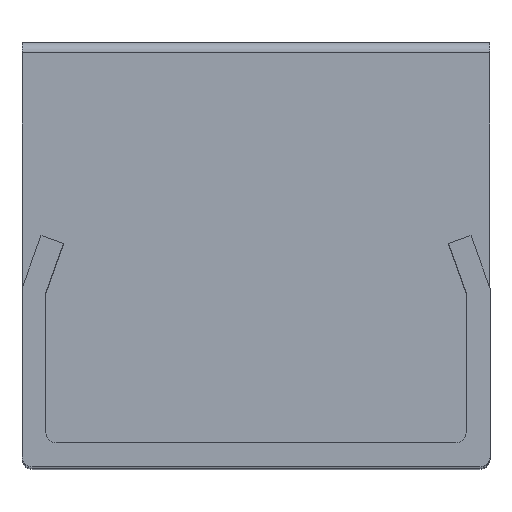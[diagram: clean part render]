
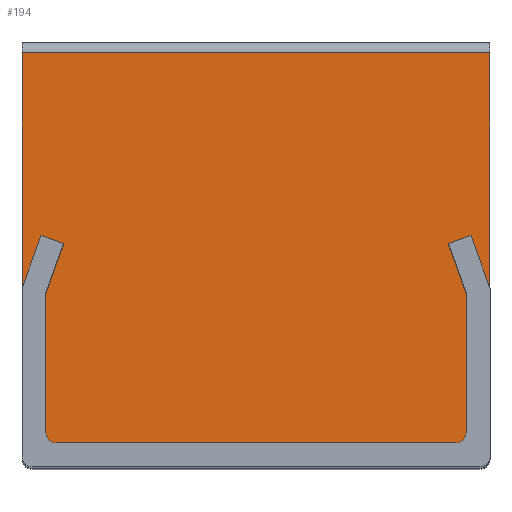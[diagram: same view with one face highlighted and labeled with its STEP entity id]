
A CAD part, top view. The second image highlights one B-rep face of the part: STEP entity #194.
In plain terms, the highlighted planar face has unit normal (0, 0, 1).
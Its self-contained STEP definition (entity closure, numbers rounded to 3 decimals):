
#26 = VERTEX_POINT ( 'NONE', #1462 ) ;
#31 = VERTEX_POINT ( 'NONE', #266 ) ;
#34 = EDGE_CURVE ( 'NONE', #31, #1263, #398, .T. ) ;
#45 = CARTESIAN_POINT ( 'NONE',  ( -22.55, 14.9, 0. ) ) ;
#65 = VECTOR ( 'NONE', #1095, 1000. ) ;
#71 = EDGE_CURVE ( 'NONE', #1098, #623, #477, .T. ) ;
#104 = PLANE ( 'NONE',  #277 ) ;
#115 = DIRECTION ( 'NONE',  ( 0.941, 0.338, 0. ) ) ;
#119 = EDGE_CURVE ( 'NONE', #243, #1357, #1418, .T. ) ;
#132 = CARTESIAN_POINT ( 'NONE',  ( 18.556, 19.223, 0. ) ) ;
#142 = VECTOR ( 'NONE', #729, 1000. ) ;
#164 = EDGE_CURVE ( 'NONE', #300, #1518, #692, .T. ) ;
#166 = VECTOR ( 'NONE', #1209, 1000. ) ;
#168 = CARTESIAN_POINT ( 'NONE',  ( -19.25, 0., 0. ) ) ;
#173 = CARTESIAN_POINT ( 'NONE',  ( 19.25, 0., 0. ) ) ;
#182 = VECTOR ( 'NONE', #888, 1000. ) ;
#194 = ADVANCED_FACE ( 'NONE', ( #546 ), #104, .F. ) ;
#217 = LINE ( 'NONE', #751, #182 ) ;
#233 = CARTESIAN_POINT ( 'NONE',  ( 21.6, 37.7, 0. ) ) ;
#235 = CIRCLE ( 'NONE', #1068, 1. ) ;
#236 = LINE ( 'NONE', #1528, #475 ) ;
#243 = VERTEX_POINT ( 'NONE', #1444 ) ;
#247 = ORIENTED_EDGE ( 'NONE', *, *, #71, .T. ) ;
#250 = CARTESIAN_POINT ( 'NONE',  ( 21.6, 37.7, 0. ) ) ;
#266 = CARTESIAN_POINT ( 'NONE',  ( -18.556, 19.223, 0. ) ) ;
#274 = LINE ( 'NONE', #381, #1490 ) ;
#277 = AXIS2_PLACEMENT_3D ( 'NONE', #233, #1190, #967 ) ;
#300 = VERTEX_POINT ( 'NONE', #132 ) ;
#341 = VECTOR ( 'NONE', #1217, 1000. ) ;
#354 = VECTOR ( 'NONE', #744, 1000. ) ;
#360 = VERTEX_POINT ( 'NONE', #1106 ) ;
#367 = ORIENTED_EDGE ( 'NONE', *, *, #1058, .T. ) ;
#381 = CARTESIAN_POINT ( 'NONE',  ( -20.25, 1., 0. ) ) ;
#389 = ORIENTED_EDGE ( 'NONE', *, *, #630, .F. ) ;
#393 = CIRCLE ( 'NONE', #772, 1. ) ;
#398 = LINE ( 'NONE', #629, #341 ) ;
#402 = ORIENTED_EDGE ( 'NONE', *, *, #34, .T. ) ;
#426 = DIRECTION ( 'NONE',  ( 1., 0., 0. ) ) ;
#429 = DIRECTION ( 'NONE',  ( 0., 1., 0. ) ) ;
#448 = DIRECTION ( 'NONE',  ( 1., 0., 0. ) ) ;
#462 = CARTESIAN_POINT ( 'NONE',  ( -20.721, 20., 0. ) ) ;
#475 = VECTOR ( 'NONE', #1540, 1000. ) ;
#477 = LINE ( 'NONE', #1112, #166 ) ;
#490 = CARTESIAN_POINT ( 'NONE',  ( 20.25, 1., 0. ) ) ;
#537 = DIRECTION ( 'NONE',  ( 0., 0., 1. ) ) ;
#546 = FACE_OUTER_BOUND ( 'NONE', #1560, .T. ) ;
#555 = ORIENTED_EDGE ( 'NONE', *, *, #119, .T. ) ;
#558 = DIRECTION ( 'NONE',  ( 0., 1., 0. ) ) ;
#568 = CARTESIAN_POINT ( 'NONE',  ( 22.55, 35.4, 0. ) ) ;
#597 = LINE ( 'NONE', #1032, #808 ) ;
#608 = DIRECTION ( 'NONE',  ( 0., -1., 0. ) ) ;
#612 = CARTESIAN_POINT ( 'NONE',  ( 20.25, 14.5, 0. ) ) ;
#623 = VERTEX_POINT ( 'NONE', #173 ) ;
#629 = CARTESIAN_POINT ( 'NONE',  ( -18.556, 19.223, 0. ) ) ;
#630 = EDGE_CURVE ( 'NONE', #26, #1357, #597, .T. ) ;
#659 = DIRECTION ( 'NONE',  ( 0.338, 0.941, 0. ) ) ;
#683 = ORIENTED_EDGE ( 'NONE', *, *, #1160, .T. ) ;
#688 = LINE ( 'NONE', #876, #354 ) ;
#692 = LINE ( 'NONE', #956, #904 ) ;
#729 = DIRECTION ( 'NONE',  ( 0., 1., 0. ) ) ;
#744 = DIRECTION ( 'NONE',  ( -0.338, 0.941, 0. ) ) ;
#751 = CARTESIAN_POINT ( 'NONE',  ( 22.55, 14.9, 0. ) ) ;
#752 = ORIENTED_EDGE ( 'NONE', *, *, #990, .T. ) ;
#772 = AXIS2_PLACEMENT_3D ( 'NONE', #1149, #537, #426 ) ;
#779 = CARTESIAN_POINT ( 'NONE',  ( -19.25, 1., 0. ) ) ;
#780 = EDGE_CURVE ( 'NONE', #1473, #31, #236, .T. ) ;
#804 = EDGE_CURVE ( 'NONE', #1154, #243, #880, .T. ) ;
#808 = VECTOR ( 'NONE', #558, 1000. ) ;
#869 = ORIENTED_EDGE ( 'NONE', *, *, #1521, .T. ) ;
#876 = CARTESIAN_POINT ( 'NONE',  ( 18.556, 19.223, 0. ) ) ;
#880 = LINE ( 'NONE', #568, #1568 ) ;
#888 = DIRECTION ( 'NONE',  ( 0.338, -0.941, 0. ) ) ;
#904 = VECTOR ( 'NONE', #115, 1000. ) ;
#938 = EDGE_CURVE ( 'NONE', #953, #1436, #1353, .T. ) ;
#953 = VERTEX_POINT ( 'NONE', #490 ) ;
#956 = CARTESIAN_POINT ( 'NONE',  ( 20.721, 20., 0. ) ) ;
#967 = DIRECTION ( 'NONE',  ( 0., 1., 0. ) ) ;
#981 = ORIENTED_EDGE ( 'NONE', *, *, #780, .T. ) ;
#990 = EDGE_CURVE ( 'NONE', #1263, #360, #274, .T. ) ;
#1020 = CARTESIAN_POINT ( 'NONE',  ( -22.55, 37.7, 0. ) ) ;
#1022 = CARTESIAN_POINT ( 'NONE',  ( 20.721, 20., 0. ) ) ;
#1032 = CARTESIAN_POINT ( 'NONE',  ( -22.55, 35.4, 0. ) ) ;
#1058 = EDGE_CURVE ( 'NONE', #1518, #1154, #217, .T. ) ;
#1061 = ORIENTED_EDGE ( 'NONE', *, *, #938, .T. ) ;
#1068 = AXIS2_PLACEMENT_3D ( 'NONE', #779, #1511, #448 ) ;
#1095 = DIRECTION ( 'NONE',  ( -1., 0., 0. ) ) ;
#1098 = VERTEX_POINT ( 'NONE', #168 ) ;
#1106 = CARTESIAN_POINT ( 'NONE',  ( -20.25, 1., 0. ) ) ;
#1112 = CARTESIAN_POINT ( 'NONE',  ( 19.25, 0., 0. ) ) ;
#1123 = VECTOR ( 'NONE', #659, 1000. ) ;
#1138 = ORIENTED_EDGE ( 'NONE', *, *, #1543, .T. ) ;
#1149 = CARTESIAN_POINT ( 'NONE',  ( 19.25, 1., 0. ) ) ;
#1154 = VERTEX_POINT ( 'NONE', #1372 ) ;
#1160 = EDGE_CURVE ( 'NONE', #1436, #300, #688, .T. ) ;
#1162 = LINE ( 'NONE', #45, #1123 ) ;
#1190 = DIRECTION ( 'NONE',  ( 0., 0., -1. ) ) ;
#1209 = DIRECTION ( 'NONE',  ( 1., 0., 0. ) ) ;
#1217 = DIRECTION ( 'NONE',  ( -0.338, -0.941, 0. ) ) ;
#1228 = ORIENTED_EDGE ( 'NONE', *, *, #1450, .T. ) ;
#1262 = CARTESIAN_POINT ( 'NONE',  ( 20.25, 14.5, 0. ) ) ;
#1263 = VERTEX_POINT ( 'NONE', #1407 ) ;
#1286 = ORIENTED_EDGE ( 'NONE', *, *, #164, .T. ) ;
#1320 = ORIENTED_EDGE ( 'NONE', *, *, #804, .T. ) ;
#1353 = LINE ( 'NONE', #612, #142 ) ;
#1357 = VERTEX_POINT ( 'NONE', #1020 ) ;
#1372 = CARTESIAN_POINT ( 'NONE',  ( 22.55, 14.9, 0. ) ) ;
#1407 = CARTESIAN_POINT ( 'NONE',  ( -20.25, 14.5, 0. ) ) ;
#1418 = LINE ( 'NONE', #250, #65 ) ;
#1436 = VERTEX_POINT ( 'NONE', #1262 ) ;
#1444 = CARTESIAN_POINT ( 'NONE',  ( 22.55, 37.7, 0. ) ) ;
#1450 = EDGE_CURVE ( 'NONE', #623, #953, #393, .T. ) ;
#1462 = CARTESIAN_POINT ( 'NONE',  ( -22.55, 14.9, 0. ) ) ;
#1473 = VERTEX_POINT ( 'NONE', #462 ) ;
#1490 = VECTOR ( 'NONE', #608, 1000. ) ;
#1511 = DIRECTION ( 'NONE',  ( 0., 0., 1. ) ) ;
#1518 = VERTEX_POINT ( 'NONE', #1022 ) ;
#1521 = EDGE_CURVE ( 'NONE', #26, #1473, #1162, .T. ) ;
#1528 = CARTESIAN_POINT ( 'NONE',  ( -20.721, 20., 0. ) ) ;
#1540 = DIRECTION ( 'NONE',  ( 0.941, -0.338, 0. ) ) ;
#1543 = EDGE_CURVE ( 'NONE', #360, #1098, #235, .T. ) ;
#1560 = EDGE_LOOP ( 'NONE', ( #1286, #367, #1320, #555, #389, #869, #981, #402, #752, #1138, #247, #1228, #1061, #683 ) ) ;
#1568 = VECTOR ( 'NONE', #429, 1000. ) ;
